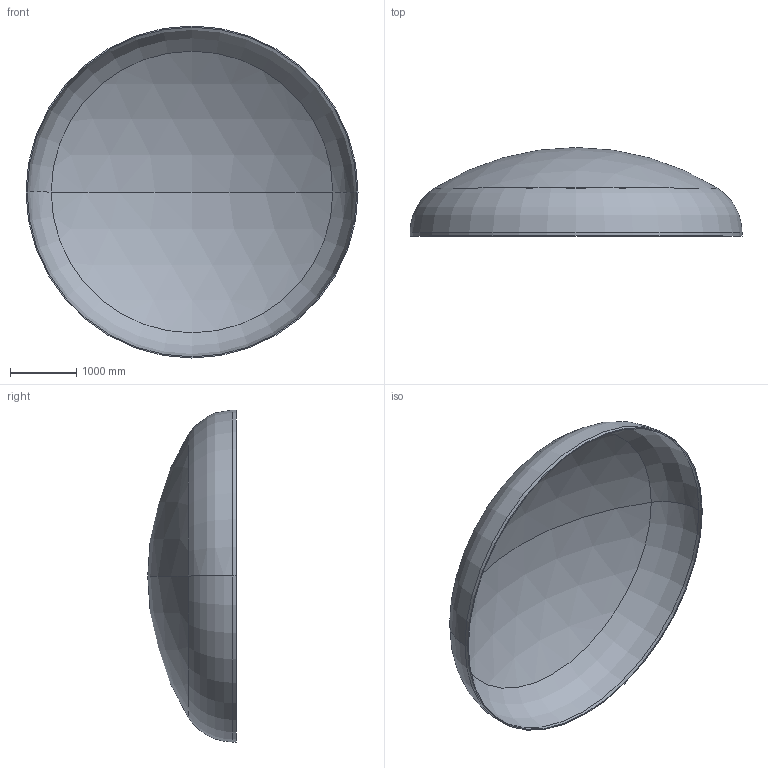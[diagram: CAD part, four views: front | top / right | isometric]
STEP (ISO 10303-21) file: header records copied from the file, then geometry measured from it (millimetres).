
FILE_DESCRIPTION (( 'STEP AP203' ), '1' );
FILE_NAME ('DIN 28013 Korbbogenform_-_Boden DIN 28013 - 5000 x 55 - I - s=17.step', '2016-07-02T00:09:19', ( '' ), ( '' ), 'SwSTEP 2.0', 'SolidWorks 2013', '' );
FILE_SCHEMA (( 'CONFIG_CONTROL_DESIGN' ));
Length unit declared in the file: millimetre
Products named in the file (1): DIN 28013 Korbbogenform_-_Boden DIN 28013 - 5000 x 55 - I - s=17
Bounding box: 5000 x 1333.66 x 5000 mm (x, y, z)
Volume: 474892482.5 mm3; surface area: 56136414 mm2
Topology: 1 solids, 1 shells, 13 faces, 24 edges, 14 vertices
Faces by surface type: torus 4, cylinder 4, sphere 4, plane 1
Entity records: 407 total; most frequent: DIRECTION 72, CARTESIAN_POINT 52, ORIENTED_EDGE 48, AXIS2_PLACEMENT_3D 34, EDGE_CURVE 24, CIRCLE 20, EDGE_LOOP 14, VERTEX_POINT 14
